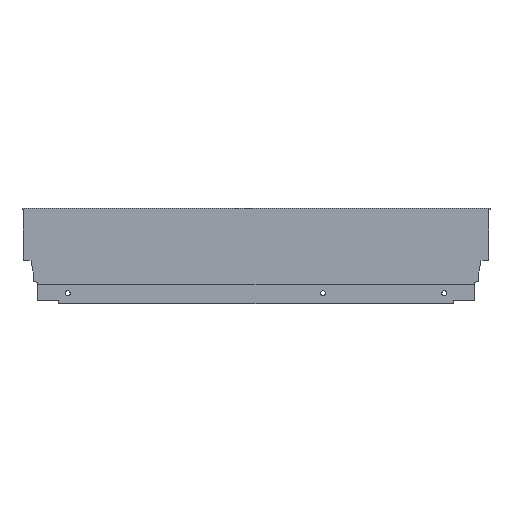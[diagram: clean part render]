
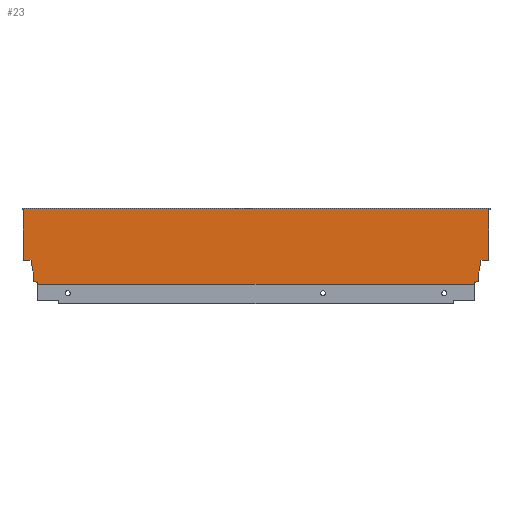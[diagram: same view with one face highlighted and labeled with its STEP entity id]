
A CAD part, top view. The second image highlights one B-rep face of the part: STEP entity #23.
In plain terms, the highlighted planar face has unit normal (0, 0, 1).
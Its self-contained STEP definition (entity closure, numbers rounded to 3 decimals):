
#23 = ADVANCED_FACE ( 'NONE', ( #171 ), #1563, .T. ) ;
#68 = VECTOR ( 'NONE', #968, 1000. ) ;
#69 = LINE ( 'NONE', #967, #68 ) ;
#171 = FACE_OUTER_BOUND ( 'NONE', #453, .T. ) ;
#392 = ORIENTED_EDGE ( 'NONE', *, *, #660, .F. ) ;
#393 = ORIENTED_EDGE ( 'NONE', *, *, #659, .F. ) ;
#394 = ORIENTED_EDGE ( 'NONE', *, *, #656, .T. ) ;
#395 = ORIENTED_EDGE ( 'NONE', *, *, #661, .T. ) ;
#396 = ORIENTED_EDGE ( 'NONE', *, *, #658, .F. ) ;
#397 = ORIENTED_EDGE ( 'NONE', *, *, #655, .F. ) ;
#398 = ORIENTED_EDGE ( 'NONE', *, *, #662, .F. ) ;
#399 = ORIENTED_EDGE ( 'NONE', *, *, #663, .F. ) ;
#401 = ORIENTED_EDGE ( 'NONE', *, *, #664, .F. ) ;
#402 = ORIENTED_EDGE ( 'NONE', *, *, #654, .T. ) ;
#404 = ORIENTED_EDGE ( 'NONE', *, *, #666, .F. ) ;
#406 = ORIENTED_EDGE ( 'NONE', *, *, #668, .F. ) ;
#408 = ORIENTED_EDGE ( 'NONE', *, *, #665, .F. ) ;
#410 = ORIENTED_EDGE ( 'NONE', *, *, #667, .F. ) ;
#411 = ORIENTED_EDGE ( 'NONE', *, *, #669, .F. ) ;
#412 = ORIENTED_EDGE ( 'NONE', *, *, #637, .F. ) ;
#413 = ORIENTED_EDGE ( 'NONE', *, *, #671, .F. ) ;
#414 = ORIENTED_EDGE ( 'NONE', *, *, #673, .F. ) ;
#453 = EDGE_LOOP ( 'NONE', ( #392, #393, #394, #395, #396, #397, #398, #399, #401, #402, #404, #406, #408, #410, #411, #412, #413, #414 ) ) ;
#563 = AXIS2_PLACEMENT_3D ( 'NONE', #1547, #1541, #1533 ) ;
#637 = EDGE_CURVE ( 'NONE', #1660, #1672, #69, .T. ) ;
#654 = EDGE_CURVE ( 'NONE', #1592, #1627, #1335, .T. ) ;
#655 = EDGE_CURVE ( 'NONE', #1643, #1586, #1339, .T. ) ;
#656 = EDGE_CURVE ( 'NONE', #1536, #1626, #1343, .T. ) ;
#658 = EDGE_CURVE ( 'NONE', #1586, #1591, #1347, .T. ) ;
#659 = EDGE_CURVE ( 'NONE', #1536, #1589, #1336, .T. ) ;
#660 = EDGE_CURVE ( 'NONE', #1589, #1646, #1351, .T. ) ;
#661 = EDGE_CURVE ( 'NONE', #1626, #1591, #1332, .T. ) ;
#662 = EDGE_CURVE ( 'NONE', #1587, #1643, #1355, .T. ) ;
#663 = EDGE_CURVE ( 'NONE', #1619, #1587, #1342, .T. ) ;
#664 = EDGE_CURVE ( 'NONE', #1592, #1619, #1350, .T. ) ;
#665 = EDGE_CURVE ( 'NONE', #1652, #1590, #1361, .T. ) ;
#666 = EDGE_CURVE ( 'NONE', #1673, #1627, #1354, .T. ) ;
#667 = EDGE_CURVE ( 'NONE', #1612, #1652, #1365, .T. ) ;
#668 = EDGE_CURVE ( 'NONE', #1590, #1673, #1358, .T. ) ;
#669 = EDGE_CURVE ( 'NONE', #1672, #1612, #1360, .T. ) ;
#671 = EDGE_CURVE ( 'NONE', #1620, #1660, #1368, .T. ) ;
#673 = EDGE_CURVE ( 'NONE', #1646, #1620, #1377, .T. ) ;
#967 = CARTESIAN_POINT ( 'NONE',  ( 0., 0., 7.5 ) ) ;
#968 = DIRECTION ( 'NONE',  ( 0., -1., 0. ) ) ;
#999 = CARTESIAN_POINT ( 'NONE',  ( -409.94, 21.2, 7.5 ) ) ;
#1004 = CARTESIAN_POINT ( 'NONE',  ( -417., 0., 7.5 ) ) ;
#1005 = DIRECTION ( 'NONE',  ( 1., 0., 0. ) ) ;
#1006 = CARTESIAN_POINT ( 'NONE',  ( -418., 66.5, 7.5 ) ) ;
#1007 = DIRECTION ( 'NONE',  ( -0.174, 0.985, 0. ) ) ;
#1008 = CARTESIAN_POINT ( 'NONE',  ( -418., 66.5, 7.5 ) ) ;
#1009 = DIRECTION ( 'NONE',  ( 1., 0., 0. ) ) ;
#1012 = CARTESIAN_POINT ( 'NONE',  ( -422., 21.2, 7.5 ) ) ;
#1013 = DIRECTION ( 'NONE',  ( -1., 0., 0. ) ) ;
#1014 = CARTESIAN_POINT ( 'NONE',  ( -417., 0., 7.5 ) ) ;
#1015 = DIRECTION ( 'NONE',  ( 0., 1., 0. ) ) ;
#1016 = CARTESIAN_POINT ( 'NONE',  ( -417., 68., 7.5 ) ) ;
#1017 = DIRECTION ( 'NONE',  ( 1., 0., 0. ) ) ;
#1018 = CARTESIAN_POINT ( 'NONE',  ( -408.1, 2.64, 7.5 ) ) ;
#1019 = DIRECTION ( 'NONE',  ( 0., -1., 0. ) ) ;
#1020 = CARTESIAN_POINT ( 'NONE',  ( -408.1, 10.765, 7.5 ) ) ;
#1021 = DIRECTION ( 'NONE',  ( 0., 1., 0. ) ) ;
#1022 = CARTESIAN_POINT ( 'NONE',  ( -403.996, 1.146, 7.5 ) ) ;
#1023 = DIRECTION ( 'NONE',  ( -0.94, 0.342, 0. ) ) ;
#1024 = CARTESIAN_POINT ( 'NONE',  ( -13.004, 1.146, 7.5 ) ) ;
#1025 = DIRECTION ( 'NONE',  ( 0., 1., 0. ) ) ;
#1026 = CARTESIAN_POINT ( 'NONE',  ( -8.9, 10.765, 7.5 ) ) ;
#1027 = DIRECTION ( 'NONE',  ( 0., -1., 0. ) ) ;
#1028 = CARTESIAN_POINT ( 'NONE',  ( -8.9, 2.64, 7.5 ) ) ;
#1029 = DIRECTION ( 'NONE',  ( 0., -1., 0. ) ) ;
#1030 = CARTESIAN_POINT ( 'NONE',  ( -7.06, 21.2, 7.5 ) ) ;
#1031 = DIRECTION ( 'NONE',  ( -0.174, -0.985, 0. ) ) ;
#1032 = CARTESIAN_POINT ( 'NONE',  ( 0., 21.2, 7.5 ) ) ;
#1033 = DIRECTION ( 'NONE',  ( -0.94, -0.342, 0. ) ) ;
#1035 = DIRECTION ( 'NONE',  ( -1., 0., 0. ) ) ;
#1036 = CARTESIAN_POINT ( 'NONE',  ( 1., 66.5, 7.5 ) ) ;
#1039 = DIRECTION ( 'NONE',  ( -1., 0., 0. ) ) ;
#1042 = CARTESIAN_POINT ( 'NONE',  ( 1., 68., 7.5 ) ) ;
#1043 = DIRECTION ( 'NONE',  ( 0., -1., 0. ) ) ;
#1152 = CARTESIAN_POINT ( 'NONE',  ( -408.1, 2.64, 7.5 ) ) ;
#1198 = CARTESIAN_POINT ( 'NONE',  ( -418., 66.5, 7.5 ) ) ;
#1204 = CARTESIAN_POINT ( 'NONE',  ( -409.94, 21.2, 7.5 ) ) ;
#1206 = CARTESIAN_POINT ( 'NONE',  ( -418., 68., 7.5 ) ) ;
#1207 = CARTESIAN_POINT ( 'NONE',  ( -8.9, 2.64, 7.5 ) ) ;
#1208 = CARTESIAN_POINT ( 'NONE',  ( -417., 21.2, 7.5 ) ) ;
#1209 = CARTESIAN_POINT ( 'NONE',  ( -403.996, 0., 7.5 ) ) ;
#1229 = CARTESIAN_POINT ( 'NONE',  ( -7.06, 21.2, 7.5 ) ) ;
#1236 = CARTESIAN_POINT ( 'NONE',  ( -403.996, 1.146, 7.5 ) ) ;
#1237 = CARTESIAN_POINT ( 'NONE',  ( 1., 66.5, 7.5 ) ) ;
#1243 = CARTESIAN_POINT ( 'NONE',  ( -417., 66.5, 7.5 ) ) ;
#1244 = CARTESIAN_POINT ( 'NONE',  ( -13.004, 0., 7.5 ) ) ;
#1259 = CARTESIAN_POINT ( 'NONE',  ( -408.1, 10.765, 7.5 ) ) ;
#1261 = CARTESIAN_POINT ( 'NONE',  ( 1., 68., 7.5 ) ) ;
#1267 = CARTESIAN_POINT ( 'NONE',  ( -8.9, 10.765, 7.5 ) ) ;
#1275 = CARTESIAN_POINT ( 'NONE',  ( 0., 66.5, 7.5 ) ) ;
#1287 = CARTESIAN_POINT ( 'NONE',  ( 0., 21.2, 7.5 ) ) ;
#1288 = CARTESIAN_POINT ( 'NONE',  ( -13.004, 1.146, 7.5 ) ) ;
#1332 = LINE ( 'NONE', #1014, #1353 ) ;
#1335 = LINE ( 'NONE', #1004, #1337 ) ;
#1336 = LINE ( 'NONE', #1006, #1349 ) ;
#1337 = VECTOR ( 'NONE', #1005, 1000. ) ;
#1339 = LINE ( 'NONE', #999, #1341 ) ;
#1341 = VECTOR ( 'NONE', #1007, 1000. ) ;
#1342 = LINE ( 'NONE', #1018, #1357 ) ;
#1343 = LINE ( 'NONE', #1008, #1344 ) ;
#1344 = VECTOR ( 'NONE', #1009, 1000. ) ;
#1347 = LINE ( 'NONE', #1012, #1348 ) ;
#1348 = VECTOR ( 'NONE', #1013, 1000. ) ;
#1349 = VECTOR ( 'NONE', #1015, 1000. ) ;
#1350 = LINE ( 'NONE', #1022, #1359 ) ;
#1351 = LINE ( 'NONE', #1016, #1352 ) ;
#1352 = VECTOR ( 'NONE', #1017, 1000. ) ;
#1353 = VECTOR ( 'NONE', #1019, 1000. ) ;
#1354 = LINE ( 'NONE', #1024, #1363 ) ;
#1355 = LINE ( 'NONE', #1020, #1356 ) ;
#1356 = VECTOR ( 'NONE', #1021, 1000. ) ;
#1357 = VECTOR ( 'NONE', #1023, 1000. ) ;
#1358 = LINE ( 'NONE', #1028, #1367 ) ;
#1359 = VECTOR ( 'NONE', #1025, 1000. ) ;
#1360 = LINE ( 'NONE', #1032, #1369 ) ;
#1361 = LINE ( 'NONE', #1026, #1362 ) ;
#1362 = VECTOR ( 'NONE', #1027, 1000. ) ;
#1363 = VECTOR ( 'NONE', #1029, 1000. ) ;
#1365 = LINE ( 'NONE', #1030, #1366 ) ;
#1366 = VECTOR ( 'NONE', #1031, 1000. ) ;
#1367 = VECTOR ( 'NONE', #1033, 1000. ) ;
#1368 = LINE ( 'NONE', #1036, #1373 ) ;
#1369 = VECTOR ( 'NONE', #1035, 1000. ) ;
#1373 = VECTOR ( 'NONE', #1039, 1000. ) ;
#1377 = LINE ( 'NONE', #1042, #1378 ) ;
#1378 = VECTOR ( 'NONE', #1043, 1000. ) ;
#1533 = DIRECTION ( 'NONE',  ( 1., 0., 0. ) ) ;
#1536 = VERTEX_POINT ( 'NONE', #1198 ) ;
#1541 = DIRECTION ( 'NONE',  ( 0., 0., 1. ) ) ;
#1547 = CARTESIAN_POINT ( 'NONE',  ( -417., 0., 7.5 ) ) ;
#1563 = PLANE ( 'NONE',  #563 ) ;
#1586 = VERTEX_POINT ( 'NONE', #1204 ) ;
#1587 = VERTEX_POINT ( 'NONE', #1152 ) ;
#1589 = VERTEX_POINT ( 'NONE', #1206 ) ;
#1590 = VERTEX_POINT ( 'NONE', #1207 ) ;
#1591 = VERTEX_POINT ( 'NONE', #1208 ) ;
#1592 = VERTEX_POINT ( 'NONE', #1209 ) ;
#1612 = VERTEX_POINT ( 'NONE', #1229 ) ;
#1619 = VERTEX_POINT ( 'NONE', #1236 ) ;
#1620 = VERTEX_POINT ( 'NONE', #1237 ) ;
#1626 = VERTEX_POINT ( 'NONE', #1243 ) ;
#1627 = VERTEX_POINT ( 'NONE', #1244 ) ;
#1643 = VERTEX_POINT ( 'NONE', #1259 ) ;
#1646 = VERTEX_POINT ( 'NONE', #1261 ) ;
#1652 = VERTEX_POINT ( 'NONE', #1267 ) ;
#1660 = VERTEX_POINT ( 'NONE', #1275 ) ;
#1672 = VERTEX_POINT ( 'NONE', #1287 ) ;
#1673 = VERTEX_POINT ( 'NONE', #1288 ) ;
